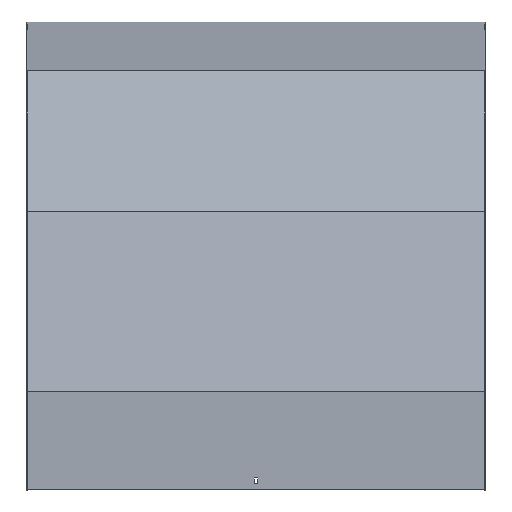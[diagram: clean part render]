
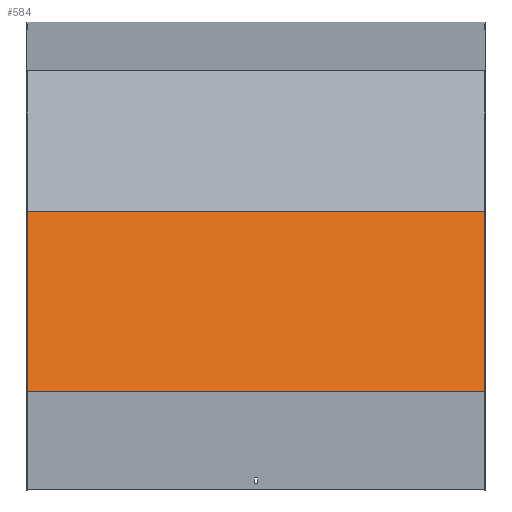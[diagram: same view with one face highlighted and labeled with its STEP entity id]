
A CAD part, top view. The second image highlights one B-rep face of the part: STEP entity #584.
In plain terms, the highlighted planar face has unit normal (0, 0.259, 0.966).
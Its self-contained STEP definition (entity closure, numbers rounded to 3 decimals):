
#23 = VERTEX_POINT ( 'NONE', #807 ) ;
#92 = CARTESIAN_POINT ( 'NONE',  ( 401.5, -311.92, 735.771 ) ) ;
#142 = ORIENTED_EDGE ( 'NONE', *, *, #741, .F. ) ;
#173 = CARTESIAN_POINT ( 'NONE',  ( -401.5, -627.77, 820.403 ) ) ;
#182 = LINE ( 'NONE', #278, #643 ) ;
#194 = PLANE ( 'NONE',  #801 ) ;
#205 = LINE ( 'NONE', #1102, #1080 ) ;
#207 = FACE_OUTER_BOUND ( 'NONE', #300, .T. ) ;
#235 = VERTEX_POINT ( 'NONE', #590 ) ;
#278 = CARTESIAN_POINT ( 'NONE',  ( 401.5, -317.096, 737.158 ) ) ;
#284 = EDGE_CURVE ( 'NONE', #235, #382, #205, .T. ) ;
#285 = DIRECTION ( 'NONE',  ( -1., 0., 0. ) ) ;
#300 = EDGE_LOOP ( 'NONE', ( #304, #142, #459, #704 ) ) ;
#303 = CARTESIAN_POINT ( 'NONE',  ( 401.5, -317.096, 737.158 ) ) ;
#304 = ORIENTED_EDGE ( 'NONE', *, *, #284, .T. ) ;
#382 = VERTEX_POINT ( 'NONE', #173 ) ;
#385 = VECTOR ( 'NONE', #285, 1000. ) ;
#398 = LINE ( 'NONE', #577, #385 ) ;
#427 = DIRECTION ( 'NONE',  ( -1., 0., 0. ) ) ;
#444 = VECTOR ( 'NONE', #427, 1000. ) ;
#459 = ORIENTED_EDGE ( 'NONE', *, *, #1028, .F. ) ;
#514 = LINE ( 'NONE', #845, #444 ) ;
#577 = CARTESIAN_POINT ( 'NONE',  ( 401.5, -311.92, 735.771 ) ) ;
#584 = ADVANCED_FACE ( 'NONE', ( #207 ), #194, .F. ) ;
#589 = EDGE_CURVE ( 'NONE', #1091, #235, #398, .T. ) ;
#590 = CARTESIAN_POINT ( 'NONE',  ( -401.5, -311.92, 735.771 ) ) ;
#615 = DIRECTION ( 'NONE',  ( 0., -0.966, 0.259 ) ) ;
#643 = VECTOR ( 'NONE', #615, 1000. ) ;
#704 = ORIENTED_EDGE ( 'NONE', *, *, #589, .T. ) ;
#741 = EDGE_CURVE ( 'NONE', #23, #382, #514, .T. ) ;
#801 = AXIS2_PLACEMENT_3D ( 'NONE', #303, #914, #990 ) ;
#807 = CARTESIAN_POINT ( 'NONE',  ( 401.5, -627.77, 820.403 ) ) ;
#845 = CARTESIAN_POINT ( 'NONE',  ( 401.5, -627.77, 820.403 ) ) ;
#893 = DIRECTION ( 'NONE',  ( 0., -0.966, 0.259 ) ) ;
#914 = DIRECTION ( 'NONE',  ( 0., -0.259, -0.966 ) ) ;
#990 = DIRECTION ( 'NONE',  ( 0., 0.966, -0.259 ) ) ;
#1028 = EDGE_CURVE ( 'NONE', #1091, #23, #182, .T. ) ;
#1080 = VECTOR ( 'NONE', #893, 1000. ) ;
#1091 = VERTEX_POINT ( 'NONE', #92 ) ;
#1102 = CARTESIAN_POINT ( 'NONE',  ( -401.5, -317.096, 737.158 ) ) ;
